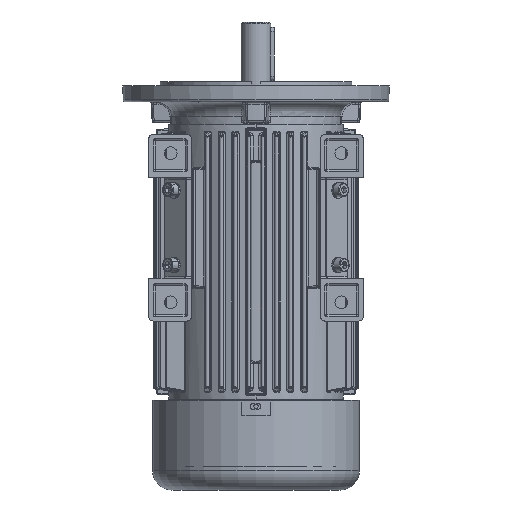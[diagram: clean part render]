
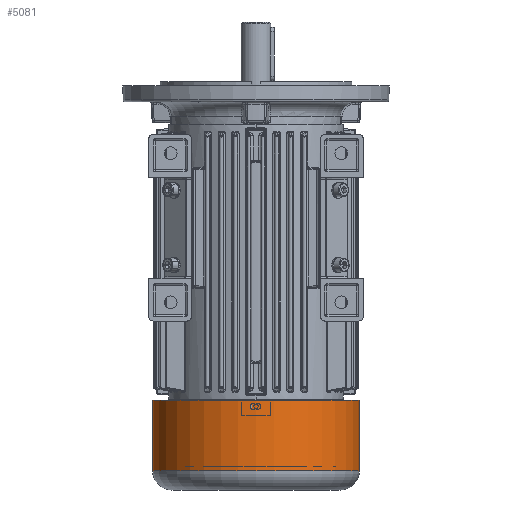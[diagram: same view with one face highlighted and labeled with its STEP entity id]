
A CAD part, front view. The second image highlights one B-rep face of the part: STEP entity #5081.
In plain terms, the highlighted cylindrical face has radius 97 mm (diameter 194 mm), a partial arc.
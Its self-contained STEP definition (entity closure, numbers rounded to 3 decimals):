
#143 = CARTESIAN_POINT ( 'NONE',  ( 97., 0., -130. ) ) ;
#718 = VERTEX_POINT ( 'NONE', #96959 ) ;
#5081 = ADVANCED_FACE ( 'NONE', ( #81166 ), #62085, .T. ) ;
#7271 = CARTESIAN_POINT ( 'NONE',  ( 0., 0., -93.959 ) ) ;
#7762 = DIRECTION ( 'NONE',  ( 0., 0., 1. ) ) ;
#10795 = VERTEX_POINT ( 'NONE', #35892 ) ;
#11341 = VECTOR ( 'NONE', #51258, 1000. ) ;
#12675 = VERTEX_POINT ( 'NONE', #44568 ) ;
#17332 = AXIS2_PLACEMENT_3D ( 'NONE', #36242, #117693, #66964 ) ;
#18007 = DIRECTION ( 'NONE',  ( 1., 0., 0. ) ) ;
#27313 = DIRECTION ( 'NONE',  ( 1., 0., 0. ) ) ;
#29511 = EDGE_CURVE ( 'NONE', #718, #10795, #60859, .T. ) ;
#30137 = ORIENTED_EDGE ( 'NONE', *, *, #106311, .T. ) ;
#35892 = CARTESIAN_POINT ( 'NONE',  ( -97., 0., -130. ) ) ;
#36242 = CARTESIAN_POINT ( 'NONE',  ( 0., 0., -130. ) ) ;
#37222 = VERTEX_POINT ( 'NONE', #143 ) ;
#44568 = CARTESIAN_POINT ( 'NONE',  ( 97., 0., -196. ) ) ;
#51258 = DIRECTION ( 'NONE',  ( 0., 0., 1. ) ) ;
#57096 = CARTESIAN_POINT ( 'NONE',  ( 97., 0., -93.959 ) ) ;
#60859 = LINE ( 'NONE', #122453, #11341 ) ;
#62085 = CYLINDRICAL_SURFACE ( 'NONE', #121627, 97. ) ;
#64512 = ORIENTED_EDGE ( 'NONE', *, *, #82993, .F. ) ;
#65720 = AXIS2_PLACEMENT_3D ( 'NONE', #108344, #7762, #18007 ) ;
#66964 = DIRECTION ( 'NONE',  ( 1., 0., 0. ) ) ;
#73562 = CIRCLE ( 'NONE', #17332, 97. ) ;
#80985 = EDGE_CURVE ( 'NONE', #718, #12675, #109006, .T. ) ;
#81166 = FACE_OUTER_BOUND ( 'NONE', #116170, .T. ) ;
#82993 = EDGE_CURVE ( 'NONE', #10795, #37222, #73562, .T. ) ;
#83718 = ORIENTED_EDGE ( 'NONE', *, *, #29511, .F. ) ;
#94220 = LINE ( 'NONE', #57096, #111812 ) ;
#96959 = CARTESIAN_POINT ( 'NONE',  ( -97., 0., -196. ) ) ;
#98380 = DIRECTION ( 'NONE',  ( 0., 0., 1. ) ) ;
#102570 = ORIENTED_EDGE ( 'NONE', *, *, #80985, .T. ) ;
#106311 = EDGE_CURVE ( 'NONE', #12675, #37222, #94220, .T. ) ;
#108299 = DIRECTION ( 'NONE',  ( 0., 0., 1. ) ) ;
#108344 = CARTESIAN_POINT ( 'NONE',  ( 0., 0., -196. ) ) ;
#109006 = CIRCLE ( 'NONE', #65720, 97. ) ;
#111812 = VECTOR ( 'NONE', #98380, 1000. ) ;
#116170 = EDGE_LOOP ( 'NONE', ( #83718, #102570, #30137, #64512 ) ) ;
#117693 = DIRECTION ( 'NONE',  ( 0., 0., 1. ) ) ;
#121627 = AXIS2_PLACEMENT_3D ( 'NONE', #7271, #108299, #27313 ) ;
#122453 = CARTESIAN_POINT ( 'NONE',  ( -97., 0., -93.959 ) ) ;
